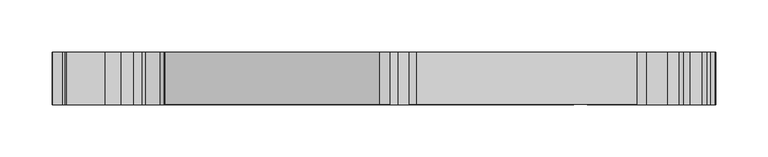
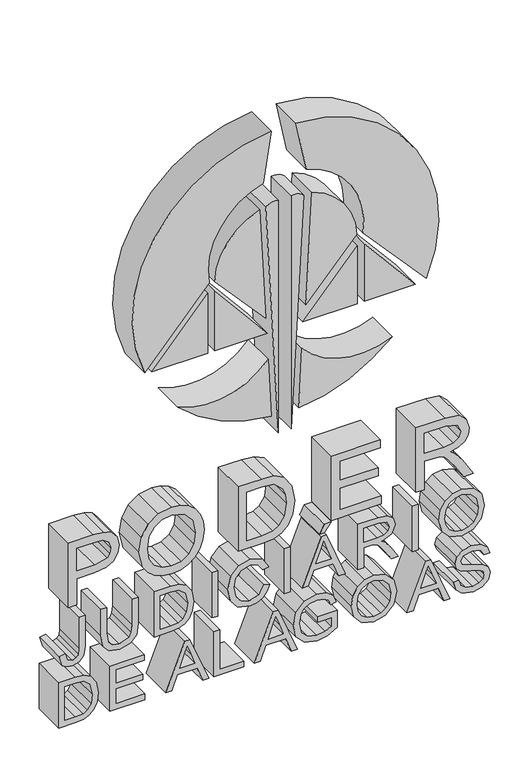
"""IFC4 building model written with IfcOpenShell, lengths in millimetres: furniture geometry, Logomarca para revit VERTICAL menor : Logomarca para revit VERTICAL menor."""

from ifc_helpers import new_model, si_unit, point, frame, frame_2d, origin, place, context, project, spatial, polyline, circle_curve, trimmed, segment, composite_curve, outline, extrude, source, transform, mapped, element, save


def furniture_6839242c(model_context):
    return source(origin(), model_context, "Body", "SweptSolid", [
        extrude(outline(polyline([(184.1722996, 253.5870306), (170.7470594, 257.3811203), (161.8541253, 267.3127079), (158.9012591, 283.0126852), (161.6395274, 296.3091667), (169.3135458, 305.3737791), (179.8288395, 308.5240753), (189.769011, 305.7858069), (196.893659, 297.2791489), (201.3057904, 281.7250982), (206.2157888, 267.3727953), (212.3103672, 264.5744396), (219.6066934, 268.5230396), (222.6282309, 281.1070564), (219.5723578, 293.6567376), (210.542081, 298.6354072), (210.542081, 307.4253344), (221.5466578, 303.9402656), (228.9116553, 294.6696393), (231.418158, 280.7636999), (229.0232462, 267.7333196), (222.0016052, 258.8318016), (212.0528498, 255.7845124), (203.3144261, 258.2480955), (196.7734842, 265.7246839), (192.4386081, 279.5018647), (189.082298, 292.3004793), (185.0907783, 298.2748829), (179.6056578, 299.7341481), (173.7085094, 297.7855998), (169.296378, 291.8541158), (167.6911862, 282.6693286), (169.8114128, 272.1282832), (175.3737886, 265.2096491), (184.1722996, 262.3769578), (184.1722996, 253.5870306)])), frame((0.0, 0.0, 0.0), z_axis=(0.0, 1.0, 0.0), x_axis=(0.0, 0.0, 1.0)), (0.0, 0.0, 1.0), 50.0),
        extrude(outline(polyline([(160.0, 185.4659227), (160.0, 194.7537168), (181.9748178, 202.7882596), (181.9748178, 231.7503828), (160.0, 239.8020934), (160.0, 249.0898875), (230.3194171, 221.0204913), (230.3194171, 213.5353189), (160.0, 185.4659227)]), holes=[polyline([(190.764745, 206.015811), (209.5635149, 212.9001094), (221.52949, 217.2779051), (208.0527462, 222.2050713), (190.764745, 228.5399992), (190.764745, 206.015811)])]), frame((0.0, 0.0, 0.0), z_axis=(0.0, 1.0, 0.0), x_axis=(0.0, 0.0, 1.0)), (0.0, 0.0, 1.0), 50.0),
        extrude(outline(polyline([(198.4600576, 103.5765663), (180.9574586, 107.5938376), (167.9099105, 119.4053022), (163.1286708, 137.0881635), (167.4549631, 154.1100634), (180.1934903, 166.2992202), (199.2669455, 170.5997607), (218.0828833, 166.513818), (231.0102566, 154.6336821), (235.6455697, 137.1396669), (233.1776947, 123.684383), (225.7740695, 112.9501995), (214.0098164, 105.9199746), (198.4600576, 103.5765663)]), holes=[polyline([(198.3742185, 112.3664934), (211.5269195, 114.1991589), (220.288949, 119.6971553), (225.2139692, 127.73599), (226.8556426, 137.1911704), (223.447829, 150.092792), (213.8424301, 158.8226317), (199.3356168, 161.8098335), (187.7001224, 160.0651532), (179.0604138, 154.8311121), (173.7040519, 146.8931383), (171.918598, 137.03666), (173.6868841, 127.3218162), (178.9917425, 119.3967183), (187.3739337, 114.1240496), (198.3742185, 112.3664934)])]), frame((0.0, 0.0, 0.0), z_axis=(0.0, 1.0, 0.0), x_axis=(0.0, 0.0, 1.0)), (0.0, 0.0, 1.0), 50.0),
        extrude(outline(polyline([(191.091257, 54.2826856), (191.091257, 74.0600216), (178.3870654, 74.0600216), (173.5714901, 65.1585036), (171.3139209, 53.1324412), (174.3097066, 39.7329526), (183.477326, 30.1189698), (198.7996111, 26.8141632), (212.6025435, 29.5610155), (219.375251, 34.0847377), (224.3539207, 41.7415883), (226.2509655, 52.9950986), (224.4912633, 62.8751827), (219.8044467, 69.7251454), (211.6754809, 73.7338329), (213.9588018, 81.837047), (225.5900042, 76.5236047), (232.5429739, 66.8838702), (235.0408927, 53.1324412), (230.7317682, 34.6255243), (217.5554614, 22.3076088), (198.4390867, 18.0242361), (179.7433237, 22.3247766), (166.9447091, 35.0633038), (162.5239938, 53.8363221), (165.3051817, 68.7465793), (173.5972418, 82.8499487), (199.8811841, 82.8499487), (199.8811841, 54.2826856), (191.091257, 54.2826856)])), frame((0.0, 0.0, 0.0), z_axis=(0.0, 1.0, 0.0), x_axis=(0.0, 0.0, 1.0)), (0.0, 0.0, 1.0), 50.0),
        extrude(outline(polyline([(160.0, -39.2845714), (160.0, -29.9967773), (181.9748178, -21.9622346), (181.9748178, 6.9998886), (160.0, 15.0515993), (160.0, 24.3393934), (230.3194171, -3.7300029), (230.3194171, -11.2151752), (160.0, -39.2845714)]), holes=[polyline([(190.764745, -18.7346832), (209.5635149, -11.8503848), (221.52949, -7.472589), (208.0527462, -2.5454229), (190.764745, 3.7895051), (190.764745, -18.7346832)])]), frame((0.0, 0.0, 0.0), z_axis=(0.0, 1.0, 0.0), x_axis=(0.0, 0.0, 1.0)), (0.0, 0.0, 1.0), 50.0),
        extrude(outline(polyline([(160.0, -98.4808134), (160.0, -54.5311777), (168.7899271, -54.5311777), (168.7899271, -89.6908863), (230.3194171, -89.6908863), (230.3194171, -98.4808134), (160.0, -98.4808134)])), frame((0.0, 0.0, 0.0), z_axis=(0.0, 1.0, 0.0), x_axis=(0.0, 0.0, 1.0)), (0.0, 0.0, 1.0), 50.0),
        extrude(outline(polyline([(160.0, -169.5828207), (160.0, -160.2950266), (181.9748178, -152.2604838), (181.9748178, -123.2983606), (160.0, -115.24665), (160.0, -105.9588559), (230.3194171, -134.0282521), (230.3194171, -141.5134245), (160.0, -169.5828207)]), holes=[polyline([(190.764745, -149.0329324), (209.5635149, -142.148634), (221.52949, -137.7708383), (208.0527462, -132.8436721), (190.764745, -126.5087442), (190.764745, -149.0329324)])]), frame((0.0, 0.0, 0.0), z_axis=(0.0, 1.0, 0.0), x_axis=(0.0, 0.0, 1.0)), (0.0, 0.0, 1.0), 50.0),
        extrude(outline(polyline([(160.0, -251.689128), (160.0, -200.048306), (168.7899271, -200.048306), (168.7899271, -242.8992008), (191.8634859, -242.8992008), (191.8634859, -203.3445287), (200.653413, -203.3445287), (200.653413, -242.8992008), (221.52949, -242.8992008), (221.52949, -201.1470469), (230.3194171, -201.1470469), (230.3194171, -251.689128), (160.0, -251.689128)])), frame((0.0, 0.0, 0.0), z_axis=(0.0, 1.0, 0.0), x_axis=(0.0, 0.0, 1.0)), (0.0, 0.0, 1.0), 50.0),
        extrude(outline(polyline([(160.0, -326.9011007), (160.0, -301.4755497), (161.2017479, -290.170536), (164.7297362, -281.7668849), (171.1075837, -275.3461179), (181.3481922, -270.5391265), (195.5374007, -268.6678334), (212.2588637, -271.4318534), (224.2763422, -279.7582493), (229.3065153, -290.0932808), (230.3194171, -302.6429619), (230.3194171, -326.9011007), (160.0, -326.9011007)]), holes=[polyline([(168.7899271, -318.1111735), (221.52949, -318.1111735), (221.52949, -302.7974723), (220.1217282, -290.3336303), (212.327535, -281.2089306), (195.6747433, -277.4577605), (182.3782618, -279.3719732), (173.648422, -284.7197511), (170.0603463, -291.2435251), (168.7899271, -302.5571228), (168.7899271, -318.1111735)])]), frame((0.0, 0.0, 0.0), z_axis=(0.0, 1.0, 0.0), x_axis=(0.0, 0.0, 1.0)), (0.0, 0.0, 1.0), 50.0),
        extrude(outline(polyline([(286.8466287, 232.7644143), (269.3440296, 236.7816857), (256.2964815, 248.5931503), (251.5152419, 266.2760115), (255.8415341, 283.2979115), (268.5800614, 295.4870682), (287.6535165, 299.7876088), (306.4694543, 295.7016661), (319.3968276, 283.8215302), (324.0321408, 266.327515), (321.5642657, 252.872231), (314.1606406, 242.1380476), (302.3963875, 235.1078226), (286.8466287, 232.7644143)]), holes=[polyline([(286.7607896, 241.5543415), (299.9134906, 243.3870069), (308.67552, 248.8850034), (313.6005402, 256.9238381), (315.2422136, 266.3790185), (311.8344001, 279.2806401), (302.2290012, 288.0104798), (287.7221878, 290.9976816), (276.0866935, 289.2530013), (267.4469848, 284.0189602), (262.090623, 276.0809864), (260.305169, 266.2245081), (262.0734551, 256.5096643), (267.3783135, 248.5845664), (275.7605048, 243.3118977), (286.7607896, 241.5543415)])]), frame((0.0, 0.0, 0.0), z_axis=(0.0, 1.0, 0.0), x_axis=(0.0, 0.0, 1.0)), (0.0, 0.0, 1.0), 50.0),
        extrude(outline(polyline([(202.4889017, 50.0), (202.4889017, 0.0), (193.6989745, 0.0), (193.6989745, 50.0), (202.4889017, 50.0)])), frame((0.0, 0.0, 252.6139828), z_axis=(0.0, 0.0, 1.0), x_axis=(1.0, 0.0, 0.0)), (0.0, 0.0, 1.0), 70.3194171),
        extrude(outline(polyline([(252.6139828, 113.4215158), (252.6139828, 122.211443), (283.3787278, 122.211443), (283.3787278, 132.8211597), (283.0697069, 137.9200042), (281.3958438, 142.1003699), (276.8377859, 146.744267), (267.1894674, 153.3538801), (252.6139828, 162.5043316), (252.6139828, 172.7191884), (271.6702701, 160.9935629), (280.7177147, 153.8689149), (284.4774686, 148.8730774), (291.0184105, 163.5944886), (303.6882664, 168.3585604), (314.3237349, 165.4829495), (321.0363551, 157.7917633), (322.9333999, 143.7227295), (322.9333999, 113.4215158), (252.6139828, 113.4215158)]), holes=[polyline([(292.1686549, 122.211443), (314.1434727, 122.211443), (314.1434727, 144.1004217), (311.1047675, 155.8517989), (303.3620777, 159.5686333), (297.396258, 157.620085), (293.4133223, 151.9203666), (292.1686549, 141.8857721), (292.1686549, 122.211443)])]), frame((0.0, 0.0, 0.0), z_axis=(0.0, 1.0, 0.0), x_axis=(0.0, 0.0, 1.0)), (0.0, 0.0, 1.0), 50.0),
        extrude(outline(polyline([(252.6139828, 31.2600891), (252.6139828, 40.5478832), (274.5888006, 48.582426), (274.5888006, 77.5445492), (252.6139828, 85.5962598), (252.6139828, 94.8840539), (322.9333999, 66.8146577), (322.9333999, 59.3294854), (252.6139828, 31.2600891)]), holes=[polyline([(283.3787278, 51.8099774), (302.1774977, 58.6942758), (314.1434727, 63.0720715), (300.666729, 67.9992377), (283.3787278, 74.3341657), (283.3787278, 51.8099774)])]), frame((0.0, 0.0, 0.0), z_axis=(0.0, 1.0, 0.0), x_axis=(0.0, 0.0, 1.0)), (0.0, 0.0, 1.0), 50.0),
        extrude(outline(polyline([(327.3283634, 57.0289966), (327.3283634, 63.621442), (340.5132541, 74.6088509), (340.5132541, 63.621442), (327.3283634, 57.0289966)])), frame((0.0, 0.0, 0.0), z_axis=(0.0, 1.0, 0.0), x_axis=(0.0, 0.0, 1.0)), (0.0, 0.0, 1.0), 50.0),
        extrude(outline(polyline([(13.9794296, 50.0), (13.9794296, 0.0), (5.1895025, 0.0), (5.1895025, 50.0), (13.9794296, 50.0)])), frame((0.0, 0.0, 252.6139828), z_axis=(0.0, 0.0, 1.0), x_axis=(1.0, 0.0, 0.0)), (0.0, 0.0, 1.0), 70.3194171),
        extrude(outline(polyline([(277.6103381, -25.3283519), (264.6657969, -32.7877724), (260.305169, -46.2387645), (263.5069686, -58.3678338), (273.1810388, -66.6255584), (288.3230618, -69.2779876), (301.3877777, -67.0375862), (311.4824596, -59.2691447), (315.2422136, -45.5177158), (311.8515679, -33.6375799), (301.0444212, -26.4270928), (303.138896, -17.6371656), (318.5556041, -27.5687532), (324.0321408, -45.1743592), (319.8002715, -62.0675004), (307.4136848, -73.9047168), (288.3058939, -78.0679147), (269.507124, -74.3854159), (256.1333872, -63.6555244), (251.5152419, -45.3632053), (253.0410325, -35.3200268), (257.6184042, -26.9592954), (265.1014305, -20.5943237), (275.344185, -16.5384247), (277.6103381, -25.3283519)])), frame((0.0, 0.0, 0.0), z_axis=(0.0, 1.0, 0.0), x_axis=(0.0, 0.0, 1.0)), (0.0, 0.0, 1.0), 50.0),
        extrude(outline(polyline([(-93.1136456, 50.0), (-93.1136456, 0.0), (-101.9035728, 0.0), (-101.9035728, 50.0), (-93.1136456, 50.0)])), frame((0.0, 0.0, 252.6139828), z_axis=(0.0, 0.0, 1.0), x_axis=(1.0, 0.0, 0.0)), (0.0, 0.0, 1.0), 70.3194171),
        extrude(outline(polyline([(252.6139828, -186.5409099), (252.6139828, -161.1153589), (253.8157306, -149.8103452), (257.343719, -141.4066942), (263.7215665, -134.9859271), (273.9621749, -130.1789357), (288.1513835, -128.3076426), (304.8728465, -131.0716627), (316.890325, -139.3980585), (321.9204981, -149.73309), (322.9333999, -162.2827711), (322.9333999, -186.5409099), (252.6139828, -186.5409099)]), holes=[polyline([(261.4039099, -177.7509827), (314.1434727, -177.7509827), (314.1434727, -162.4372816), (312.735711, -149.9734396), (304.9415178, -140.8487398), (288.2887261, -137.0975697), (274.9922445, -139.0117824), (266.2624048, -144.3595603), (262.6743291, -150.8833344), (261.4039099, -162.196932), (261.4039099, -177.7509827)])]), frame((0.0, 0.0, 0.0), z_axis=(0.0, 1.0, 0.0), x_axis=(0.0, 0.0, 1.0)), (0.0, 0.0, 1.0), 50.0),
        extrude(outline(polyline([(322.9333999, -218.8105161), (282.6748469, -218.8105161), (271.6702701, -219.9221329), (264.9233143, -223.2569832), (260.305169, -238.1414887), (262.6399934, -248.4765202), (269.2753583, -254.433756), (282.6748469, -256.1677065), (322.9333999, -256.1677065), (322.9333999, -264.9576336), (282.365826, -264.9576336), (264.76022, -262.2880366), (254.9144715, -253.3779347), (251.5152419, -237.317433), (255.4209224, -221.0079979), (265.54994, -212.4069169), (282.365826, -210.020589), (322.9333999, -210.020589), (322.9333999, -218.8105161)])), frame((0.0, 0.0, 0.0), z_axis=(0.0, 1.0, 0.0), x_axis=(0.0, 0.0, 1.0)), (0.0, 0.0, 1.0), 50.0),
        extrude(outline(polyline([(271.0732075, -326.272659), (255.4762372, -321.5686746), (251.5426589, -315.5985629), (250.2314662, -307.4738891), (252.7723045, -296.6667423), (260.1458859, -289.9369544), (273.8028919, -287.8167278), (321.6496242, -287.8167278), (321.6496242, -296.6066549), (273.6483814, -296.6066549), (264.9357095, -297.5594693), (260.6094173, -301.0445381), (259.0213933, -307.0618612), (261.819749, -314.4783623), (272.206284, -317.4827319), (271.0732075, -326.272659)])), frame((0.0, 0.0, 0.0), z_axis=(0.0, 1.0, 0.0), x_axis=(0.0, 0.0, 1.0)), (0.0, 0.0, 1.0), 50.0),
        extrude(outline(polyline([(342.6535755, 199.0039692), (342.6535755, 211.5610079), (386.6032112, 211.5610079), (386.6032112, 226.7177461), (386.1617528, 234.0018096), (383.7705199, 239.9737607), (377.2590086, 246.6078993), (363.4756965, 256.0502039), (342.6535755, 269.1222775), (342.6535755, 283.7149299), (369.8768432, 266.9640364), (382.801764, 256.7859679), (388.1728411, 249.6490572), (391.5021731, 262.0190893), (397.5170438, 270.6796446), (405.7208123, 275.7840072), (415.6168379, 277.4854615), (430.8103643, 273.3774459), (440.3998217, 262.3900369), (443.1098857, 242.2914173), (443.1098857, 199.0039692), (342.6535755, 199.0039692)]), holes=[polyline([(399.16025, 211.5610079), (430.5528469, 211.5610079), (430.5528469, 242.8309775), (426.2118394, 259.6186592), (415.1508541, 264.9284227), (406.6282545, 262.1447823), (400.9383463, 254.0023274), (399.16025, 239.6671924), (399.16025, 211.5610079)])]), frame((0.0, 0.0, 0.0), z_axis=(0.0, 1.0, 0.0), x_axis=(0.0, 0.0, 1.0)), (0.0, 0.0, 1.0), 50.0),
        extrude(outline(polyline([(342.6535755, 74.3092614), (342.6535755, 148.0818641), (355.2106143, 148.0818641), (355.2106143, 86.8663002), (388.1728411, 86.8663002), (388.1728411, 143.3729746), (400.7298799, 143.3729746), (400.7298799, 86.8663002), (430.5528469, 86.8663002), (430.5528469, 146.5122343), (443.1098857, 146.5122343), (443.1098857, 74.3092614), (342.6535755, 74.3092614)])), frame((0.0, 0.0, 0.0), z_axis=(0.0, 1.0, 0.0), x_axis=(0.0, 0.0, 1.0)), (0.0, 0.0, 1.0), 50.0),
        extrude(outline(polyline([(342.6535755, -62.9677825), (342.6535755, -26.6455669), (344.3703582, -10.4955473), (349.4103415, 1.5096685), (358.5215523, 10.6821929), (373.1509929, 17.5493235), (393.4212909, 20.2225993), (417.3090951, 16.2739992), (434.4769215, 4.3791481), (441.6628832, -10.3851827), (443.1098857, -28.3132986), (443.1098857, -62.9677825), (342.6535755, -62.9677825)]), holes=[polyline([(355.2106143, -50.4107438), (430.5528469, -50.4107438), (430.5528469, -28.5340278), (428.5417587, -10.7285392), (417.407197, 2.3067462), (407.3027048, 6.3258569), (393.6174946, 7.6655605), (374.6225209, 4.930971), (362.1513213, -2.7087117), (357.0254988, -12.0283889), (355.2106143, -28.1906713), (355.2106143, -50.4107438)])]), frame((0.0, 0.0, 0.0), z_axis=(0.0, 1.0, 0.0), x_axis=(0.0, 0.0, 1.0)), (0.0, 0.0, 1.0), 50.0),
        extrude(outline(polyline([(392.4417167, -208.8537719), (367.4380038, -203.1148128), (356.8736592, -196.026953), (348.7986494, -186.241292), (343.6758926, -174.3587035), (341.968307, -160.9800616), (343.5134114, -148.3770376), (348.1487245, -136.6630617), (355.7884073, -126.6750656), (366.3466205, -119.2499806), (379.1673081, -114.6422586), (393.5944136, -113.1063513), (407.8314469, -114.5656166), (420.4743248, -118.9434123), (431.0141439, -126.1048485), (438.9420009, -135.915035), (443.9084078, -147.7301784), (445.5638768, -160.9064852), (442.038341, -180.1283195), (431.4617337, -195.4628673), (414.6556579, -205.5060458), (392.4417167, -208.8537719)]), holes=[polyline([(392.3190894, -196.2967332), (411.1086623, -193.6786396), (423.6258472, -185.824359), (430.6615903, -174.3403094), (433.0068381, -160.8329088), (428.138533, -142.4020209), (414.4165346, -129.9308212), (393.6925155, -125.6633901), (377.0703807, -128.1557906), (364.7279398, -135.6329922), (357.0759943, -146.9729547), (354.5253458, -161.053638), (357.0514688, -174.9319863), (364.6298379, -186.2535547), (376.6043968, -193.7859385), (392.3190894, -196.2967332)])]), frame((0.0, 0.0, 0.0), z_axis=(0.0, 1.0, 0.0), x_axis=(0.0, 0.0, 1.0)), (0.0, 0.0, 1.0), 50.0),
        extrude(outline(polyline([(342.6535755, -313.1629578), (342.6535755, -300.605919), (383.4639515, -300.605919), (383.4639515, -275.0749086), (385.6835062, -257.2356975), (392.3421704, -245.9018663), (402.2075392, -239.8410105), (414.0472081, -237.8207252), (427.744681, -240.8128321), (437.4567657, -248.722295), (442.1533925, -260.9237145), (443.1098857, -275.9332999), (443.1098857, -313.1629578), (342.6535755, -313.1629578)]), holes=[polyline([(396.0209903, -300.605919), (430.5528469, -300.605919), (430.5528469, -274.6334502), (429.6944556, -262.0764114), (424.0045474, -253.6028628), (413.6057497, -250.3777639), (406.1806647, -251.7450587), (400.631778, -255.8469429), (396.0209903, -274.3391446), (396.0209903, -300.605919)])]), frame((0.0, 0.0, 0.0), z_axis=(0.0, 1.0, 0.0), x_axis=(0.0, 0.0, 1.0)), (0.0, 0.0, 1.0), 50.0),
        extrude(outline(composite_curve([segment(trimmed(circle_curve(frame_2d((757.6248439, 3.8683204)), 222.7277171), [point((979.655651, -13.7372664))], [point((668.9325045, -200.4385686))], False, "CARTESIAN"), True, "CONTINUOUS"), segment(polyline([(668.9325045, -200.4385686), (775.9025902, -105.3488271)]), True, "CONTINUOUS"), segment(trimmed(circle_curve(frame_2d((795.5662425, 4.7137447)), 111.8053171), [point((775.9025902, -105.3488271))], [point((903.1098046, -25.8609375))], True, "CARTESIAN"), True, "CONTINUOUS"), segment(polyline([(903.1098046, -25.8609375), (979.655651, -13.7372664)]), True, "CONTINUOUS")], self_intersect=False)), frame((0.0, 0.0, 0.0), z_axis=(0.0, 1.0, 0.0), x_axis=(0.0, 0.0, 1.0)), (0.0, 0.0, 1.0), 50.0),
        extrude(outline(composite_curve([segment(trimmed(circle_curve(frame_2d((793.0971904, 8.7718378)), 113.0791481), [point((902.5250762, 37.2750227))], [point((774.6278146, 120.3324755))], True, "CARTESIAN"), True, "CONTINUOUS"), segment(polyline([(774.6278146, 120.3324755), (670.587539, 214.0107604)]), True, "CONTINUOUS"), segment(trimmed(circle_curve(frame_2d((759.5913692, 12.587023)), 220.2117249), [point((670.587539, 214.0107604))], [point((979.5889893, 22.2953155))], False, "CARTESIAN"), True, "CONTINUOUS"), segment(polyline([(979.5889893, 22.2953155), (902.5250762, 37.2750227)]), True, "CONTINUOUS")], self_intersect=False)), frame((0.0, 0.0, 0.0), z_axis=(0.0, 1.0, 0.0), x_axis=(0.0, 0.0, 1.0)), (0.0, 0.0, 1.0), 50.0),
        extrude(outline(polyline([(666.9656381, -107.4234037), (759.7730423, -107.4234037), (666.9656381, -189.9234037), (666.9656381, -107.4234037)])), frame((0.0, 0.0, 0.0), z_axis=(0.0, 1.0, 0.0), x_axis=(0.0, 0.0, 1.0)), (0.0, 0.0, 1.0), 50.0),
        extrude(outline(polyline([(759.4656381, -97.4234037), (666.9656381, -97.4234037), (666.9656381, -19.8066878), (759.4656381, -97.4234037)])), frame((0.0, 0.0, 0.0), z_axis=(0.0, 1.0, 0.0), x_axis=(0.0, 0.0, 1.0)), (0.0, 0.0, 1.0), 50.0),
        extrude(outline(polyline([(666.9656381, 112.5765963), (756.9656381, 112.5765963), (666.9656381, 32.5722037), (666.9656381, 112.5765963)])), frame((0.0, 0.0, 0.0), z_axis=(0.0, 1.0, 0.0), x_axis=(0.0, 0.0, 1.0)), (0.0, 0.0, 1.0), 50.0),
        extrude(outline(polyline([(666.9656381, 198.0955631), (756.9656381, 122.5765963), (666.9656381, 122.5765963), (666.9656381, 198.0955631)])), frame((0.0, 0.0, 0.0), z_axis=(0.0, 1.0, 0.0), x_axis=(0.0, 0.0, 1.0)), (0.0, 0.0, 1.0), 50.0),
        extrude(outline(composite_curve([segment(polyline([(506.3225168, -3.6674455), (868.8225168, -3.6674455)]), True, "CONTINUOUS"), segment(trimmed(circle_curve(frame_2d((842.2245707, -8.2557332)), 26.990797), [point((868.8225168, -3.6674455))], [point((865.166954, -22.4736855))], False, "CARTESIAN"), True, "CONTINUOUS"), segment(polyline([(865.166954, -22.4736855), (506.3225168, -3.6674455)]), True, "CONTINUOUS")], self_intersect=False)), frame((0.0, 0.0, 0.0), z_axis=(0.0, 1.0, 0.0), x_axis=(0.0, 0.0, 1.0)), (0.0, 0.0, 1.0), 50.0),
        extrude(outline(composite_curve([segment(polyline([(506.5924515, 15.1018098), (863.6025102, 33.8119142)]), True, "CONTINUOUS"), segment(trimmed(circle_curve(frame_2d((846.7227935, 18.6985626)), 22.6569687), [point((863.6025102, 33.8119142))], [point((869.0924515, 15.1018098))], False, "CARTESIAN"), True, "CONTINUOUS"), segment(polyline([(869.0924515, 15.1018098), (506.5924515, 15.1018098)]), True, "CONTINUOUS")], self_intersect=False)), frame((0.0, 0.0, 0.0), z_axis=(0.0, 1.0, 0.0), x_axis=(0.0, 0.0, 1.0)), (0.0, 0.0, 1.0), 50.0),
        extrude(outline(composite_curve([segment(polyline([(535.6232656, -14.1020776), (626.4178309, -18.8604191)]), True, "CONTINUOUS"), segment(trimmed(circle_curve(frame_2d((700.0411562, -103.9082417)), 112.4878933), [point((626.4178309, -18.8604191))], [point((598.190836, -151.6579895))], True, "CARTESIAN"), True, "CONTINUOUS"), segment(trimmed(circle_curve(frame_2d((757.6248439, 3.8683204)), 222.7277171), [point((598.190836, -151.6579895))], [point((535.6232656, -14.1020776))], False, "CARTESIAN"), True, "CONTINUOUS")], self_intersect=False)), frame((0.0, 0.0, 0.0), z_axis=(0.0, 1.0, 0.0), x_axis=(0.0, 0.0, 1.0)), (0.0, 0.0, 1.0), 50.0),
        extrude(outline(composite_curve([segment(trimmed(circle_curve(frame_2d((757.0197195, 8.4514466)), 222.7277171), [point((535.0181412, 26.4218446))], [point((597.5857115, 163.9777565))], False, "CARTESIAN"), True, "CONTINUOUS"), segment(trimmed(circle_curve(frame_2d((699.4360317, 116.2280087)), 112.4878933), [point((597.5857115, 163.9777565))], [point((625.8127065, 31.1801861))], True, "CARTESIAN"), True, "CONTINUOUS"), segment(polyline([(625.8127065, 31.1801861), (535.0181412, 26.4218446)]), True, "CONTINUOUS")], self_intersect=False)), frame((0.0, 0.0, 0.0), z_axis=(0.0, 1.0, 0.0), x_axis=(0.0, 0.0, 1.0)), (0.0, 0.0, 1.0), 50.0),
        extrude(outline(composite_curve([segment(polyline([(691.0802215, -22.3049656), (863.3438162, -31.332918)]), True, "CONTINUOUS"), segment(trimmed(circle_curve(frame_2d((771.7022862, -0.9023096)), 96.5618556), [point((863.3438162, -31.332918))], [point((774.507699, -97.4234037))], False, "CARTESIAN"), True, "CONTINUOUS"), segment(polyline([(774.507699, -97.4234037), (691.0802215, -22.3049656)]), True, "CONTINUOUS")], self_intersect=False)), frame((0.0, 0.0, 0.0), z_axis=(0.0, 1.0, 0.0), x_axis=(0.0, 0.0, 1.0)), (0.0, 0.0, 1.0), 50.0),
        extrude(outline(composite_curve([segment(polyline([(691.4919943, 36.7431876), (774.9194718, 111.8616257)]), True, "CONTINUOUS"), segment(trimmed(circle_curve(frame_2d((772.114059, 15.3405316)), 96.5618556), [point((774.9194718, 111.8616257))], [point((863.755589, 45.7711401))], False, "CARTESIAN"), True, "CONTINUOUS"), segment(polyline([(863.755589, 45.7711401), (691.4919943, 36.7431876)]), True, "CONTINUOUS")], self_intersect=False)), frame((0.0, 0.0, 0.0), z_axis=(0.0, 1.0, 0.0), x_axis=(0.0, 0.0, 1.0)), (0.0, 0.0, 1.0), 50.0),
    ])


if __name__ == "__main__":
    model = new_model("IFC4")
    model_context = context("Model", 3, world=origin())
    ifc_project = project(units=[si_unit("LENGTHUNIT", "METRE", prefix="MILLI")], contexts=[model_context])
    site = spatial("IfcSite", under=ifc_project)
    building = spatial("IfcBuilding", under=site)
    placement = place(None, origin())
    furniture_shape = furniture_6839242c(model_context)
    element("IfcFurniture", 1, ObjectType="Logomarca para revit VERTICAL menor : Logomarca para revit VERTICAL menor", at=placement, inside=building, context=model_context, shape_type="MappedRepresentation", body=[
        mapped(furniture_shape, transform((0.0, 0.0, 0.0), x_axis=(1.0, 0.0, 0.0), y_axis=(0.0, 1.0, 0.0), z_axis=(0.0, 0.0, 1.0))),
    ])
    save(model, "model.ifc")
